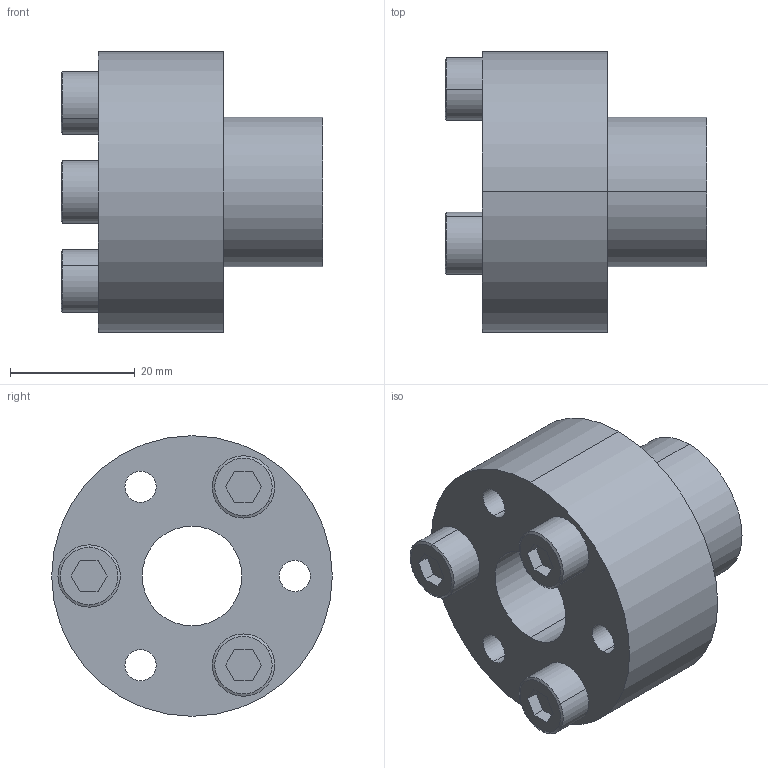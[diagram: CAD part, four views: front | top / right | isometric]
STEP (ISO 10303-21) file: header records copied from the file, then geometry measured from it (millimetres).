
FILE_DESCRIPTION (( 'STEP AP203' ), '1' );
FILE_NAME ('SB-16.STEP', '2009-09-29T15:45:18', ( 'USER' ), ( 'HOME' ), 'SwSTEP 2.0', 'SolidWorks 2007', '' );
FILE_SCHEMA (( 'CONFIG_CONTROL_DESIGN' ));
Length unit declared in the file: millimetre
Products named in the file (1): SB-16
Bounding box: 42 x 45 x 45 mm (x, y, z)
Volume: 32174.6 mm3; surface area: 12358.8 mm2
Topology: 4 solids, 4 shells, 69 faces, 156 edges, 102 vertices
Faces by surface type: plane 33, cylinder 30, cone 6
Entity records: 2047 total; most frequent: DIRECTION 362, CARTESIAN_POINT 328, ORIENTED_EDGE 312, EDGE_CURVE 156, AXIS2_PLACEMENT_3D 136, VERTEX_POINT 102, VECTOR 90, LINE 90
